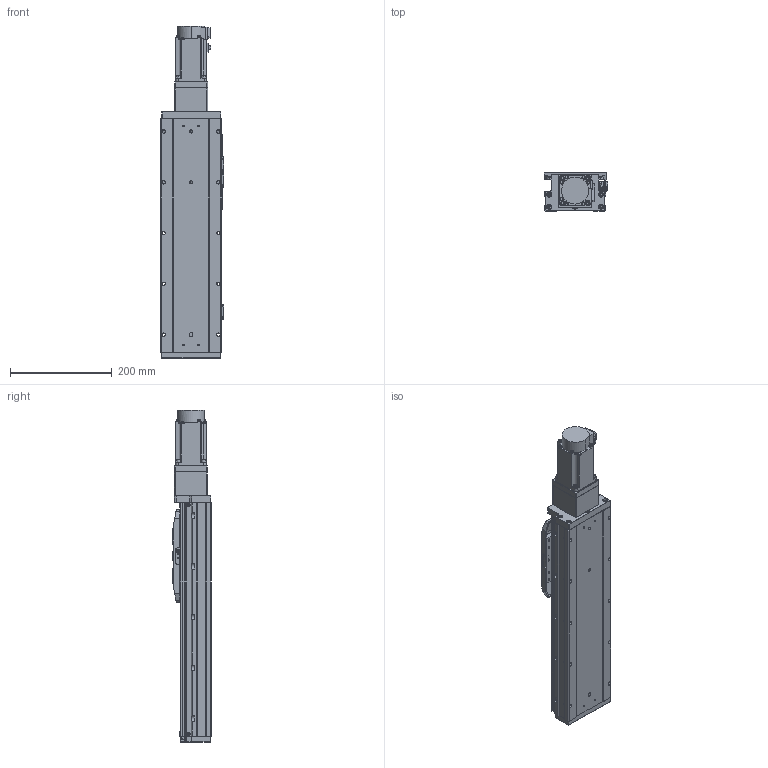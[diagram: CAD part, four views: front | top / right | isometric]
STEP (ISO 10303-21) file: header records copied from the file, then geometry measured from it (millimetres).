
FILE_DESCRIPTION (( 'STEP AP203' ), '1' );
FILE_NAME ('GTH12-250-BC-M40-C4.step', '2022-09-23T01:14:00', ( '微软用户' ), ( '微软中国' ), 'SwSTEP 2.0', 'SolidWorks 2020', '' );
FILE_SCHEMA (( 'CONFIG_CONTROL_DESIGN' ));
Length unit declared in the file: millimetre
Products named in the file (19): GBT 70.1-M5×16; BTH-M3X5X6; GTH120-001_250; GBT 70.3-M3℅8; CTHA86-006-1_CTHA86-006-2; GTH120-003; GTH80-022; CTHA86-013; GTH120-006; GTH80-028; CTHA86-027; GTH120-004; GTH50-023; hg-kn43j_-s100_; GTH120-013; GTH50-024; GTH12-250-BC-M40-C4; GBT 70.1-M3℅6; GBT96.1-2002 3×0.8
Assembly tree (62 placements, depth 2):
  GTH12-250-BC-M40-C4
    GTH120-001_250
    GTH120-003
    GTH120-006
    GTH120-004
    GTH120-013
    GBT 70.1-M3℅6  x14
    GBT 70.1-M5×16  x10
    GBT 70.3-M3℅8  x6
    GTH80-022
    GTH80-028  x2
    GTH50-023  x3
    GTH50-024  x3
    GBT96.1-2002 3×0.8  x6
    BTH-M3X5X6  x8
    CTHA86-006-1_CTHA86-006-2
    CTHA86-013
    CTHA86-027
    hg-kn43j_-s100_
Bounding box: 125.7 x 76 x 653.7 mm (x, y, z)
Volume: 4075226.2 mm3; surface area: 444017.6 mm2
Topology: 64 solids, 64 shells, 2372 faces, 5469 edges, 3329 vertices
Faces by surface type: plane 1224, cylinder 655, cone 315, torus 170, sphere 8
Entity records: 41426 total; most frequent: DIRECTION 6887, CARTESIAN_POINT 6618, ORIENTED_EDGE 6320, EDGE_CURVE 3160, AXIS2_PLACEMENT_3D 2407, VECTOR 2073, LINE 2073, VERTEX_POINT 1988
